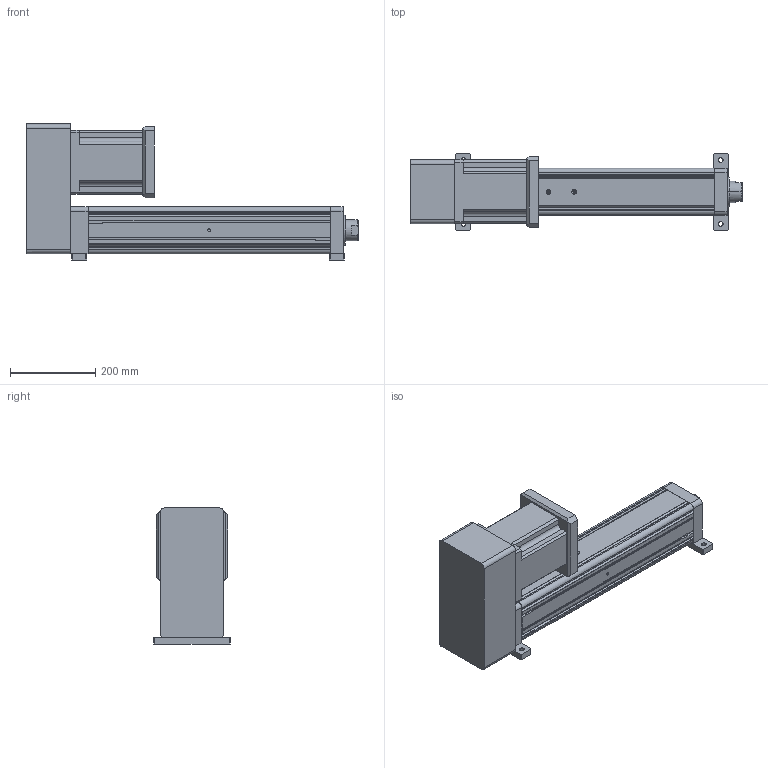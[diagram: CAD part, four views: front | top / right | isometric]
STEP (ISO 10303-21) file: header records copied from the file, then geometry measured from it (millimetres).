
FILE_DESCRIPTION (( 'STEP AP203' ), '1' );
FILE_NAME ('YRJ110-L400-H2K2.STEP', '2020-01-04T06:12:09', ( 'User' ), ( 'China' ), 'SwSTEP 2.0', 'SolidWorks 2016', '' );
FILE_SCHEMA (( 'CONFIG_CONTROL_DESIGN' ));
Length unit declared in the file: millimetre
Products named in the file (7): H2-110-2; K2-110; 095-100俴最倰第; YRJ110-L400-H2K2; 萇儂碟-110; 142熬厒儂; H2-110-1
Assembly tree (6 placements, depth 2):
  YRJ110-L400-H2K2
    095-100俴最倰第
    萇儂碟-110
    142熬厒儂
    H2-110-1
    H2-110-2
    K2-110
Bounding box: 781 x 180 x 320 mm (x, y, z)
Volume: 12297730.1 mm3; surface area: 1002106.2 mm2
Topology: 6 solids, 6 shells, 320 faces, 882 edges, 569 vertices
Faces by surface type: plane 183, cylinder 110, cone 27
Entity records: 11146 total; most frequent: CARTESIAN_POINT 2104, DIRECTION 1737, ORIENTED_EDGE 1732, EDGE_CURVE 866, VECTOR 609, LINE 609, VERTEX_POINT 569, AXIS2_PLACEMENT_3D 564
